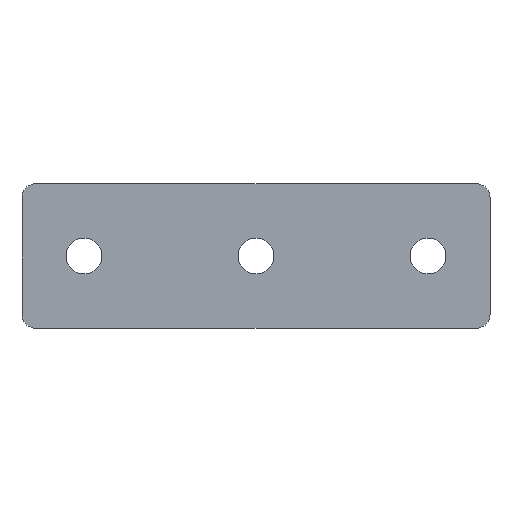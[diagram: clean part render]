
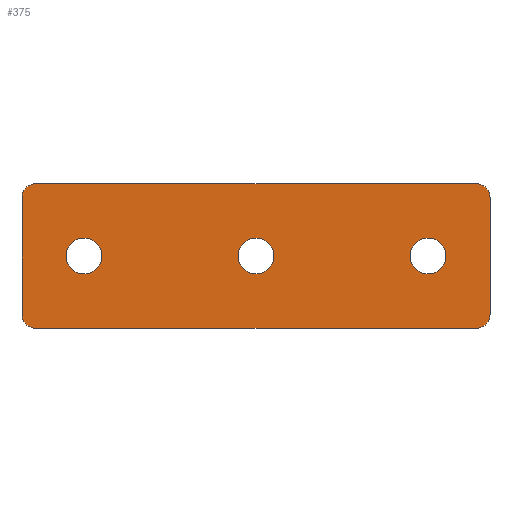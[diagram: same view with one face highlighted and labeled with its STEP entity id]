
A CAD part, top view. The second image highlights one B-rep face of the part: STEP entity #375.
In plain terms, the highlighted planar face has unit normal (0, 0, 1).
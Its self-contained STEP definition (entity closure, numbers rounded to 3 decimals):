
#5 = EDGE_CURVE ( 'NONE', #100, #268, #244, .T. ) ;
#8 = CIRCLE ( 'NONE', #251, 2.6 ) ;
#17 = CIRCLE ( 'NONE', #263, 2. ) ;
#25 = CARTESIAN_POINT ( 'NONE',  ( 32., -8.5, 2. ) ) ;
#27 = CIRCLE ( 'NONE', #78, 2. ) ;
#29 = CARTESIAN_POINT ( 'NONE',  ( -25., 0., 2. ) ) ;
#31 = DIRECTION ( 'NONE',  ( -1., 0., 0. ) ) ;
#33 = CIRCLE ( 'NONE', #281, 2. ) ;
#36 = DIRECTION ( 'NONE',  ( 0., 0., 1. ) ) ;
#42 = CARTESIAN_POINT ( 'NONE',  ( 32., -8.5, 2. ) ) ;
#50 = EDGE_CURVE ( 'NONE', #63, #412, #122, .T. ) ;
#63 = VERTEX_POINT ( 'NONE', #340 ) ;
#65 = CARTESIAN_POINT ( 'NONE',  ( 25., 0., 2. ) ) ;
#66 = FACE_BOUND ( 'NONE', #536, .T. ) ;
#70 = AXIS2_PLACEMENT_3D ( 'NONE', #474, #81, #258 ) ;
#71 = DIRECTION ( 'NONE',  ( 0., 0., 1. ) ) ;
#76 = VERTEX_POINT ( 'NONE', #552 ) ;
#78 = AXIS2_PLACEMENT_3D ( 'NONE', #304, #480, #87 ) ;
#81 = DIRECTION ( 'NONE',  ( 0., 0., 1. ) ) ;
#84 = EDGE_CURVE ( 'NONE', #182, #544, #374, .T. ) ;
#87 = DIRECTION ( 'NONE',  ( -1., 0., 0. ) ) ;
#88 = AXIS2_PLACEMENT_3D ( 'NONE', #515, #190, #359 ) ;
#92 = ORIENTED_EDGE ( 'NONE', *, *, #245, .F. ) ;
#97 = VERTEX_POINT ( 'NONE', #301 ) ;
#100 = VERTEX_POINT ( 'NONE', #127 ) ;
#103 = VERTEX_POINT ( 'NONE', #523 ) ;
#105 = ORIENTED_EDGE ( 'NONE', *, *, #388, .T. ) ;
#106 = DIRECTION ( 'NONE',  ( 0., 0., 1. ) ) ;
#113 = DIRECTION ( 'NONE',  ( 1., 0., 0. ) ) ;
#122 = CIRCLE ( 'NONE', #368, 2. ) ;
#127 = CARTESIAN_POINT ( 'NONE',  ( 27.6, 0., 2. ) ) ;
#129 = DIRECTION ( 'NONE',  ( 1., 0., 0. ) ) ;
#131 = CARTESIAN_POINT ( 'NONE',  ( 25., 0., 2. ) ) ;
#134 = ORIENTED_EDGE ( 'NONE', *, *, #152, .T. ) ;
#135 = CARTESIAN_POINT ( 'NONE',  ( 32., 10.5, 2. ) ) ;
#139 = VERTEX_POINT ( 'NONE', #472 ) ;
#148 = EDGE_CURVE ( 'NONE', #412, #139, #557, .T. ) ;
#152 = EDGE_CURVE ( 'NONE', #139, #397, #33, .T. ) ;
#156 = CARTESIAN_POINT ( 'NONE',  ( -34., 8.5, 2. ) ) ;
#168 = AXIS2_PLACEMENT_3D ( 'NONE', #65, #334, #113 ) ;
#181 = VERTEX_POINT ( 'NONE', #310 ) ;
#182 = VERTEX_POINT ( 'NONE', #135 ) ;
#183 = ORIENTED_EDGE ( 'NONE', *, *, #342, .F. ) ;
#188 = EDGE_CURVE ( 'NONE', #268, #100, #521, .T. ) ;
#190 = DIRECTION ( 'NONE',  ( 0., 0., 1. ) ) ;
#198 = DIRECTION ( 'NONE',  ( 0., 0., 1. ) ) ;
#205 = CARTESIAN_POINT ( 'NONE',  ( -32., 10.5, 2. ) ) ;
#210 = DIRECTION ( 'NONE',  ( 1., 0., 0. ) ) ;
#211 = DIRECTION ( 'NONE',  ( 0., 1., 0. ) ) ;
#216 = VECTOR ( 'NONE', #211, 1000. ) ;
#220 = CARTESIAN_POINT ( 'NONE',  ( 2.6, 0., 2. ) ) ;
#237 = FACE_OUTER_BOUND ( 'NONE', #548, .T. ) ;
#240 = LINE ( 'NONE', #417, #216 ) ;
#243 = DIRECTION ( 'NONE',  ( 0., 0., 1. ) ) ;
#244 = CIRCLE ( 'NONE', #168, 2.6 ) ;
#245 = EDGE_CURVE ( 'NONE', #76, #103, #547, .T. ) ;
#249 = EDGE_CURVE ( 'NONE', #103, #76, #8, .T. ) ;
#251 = AXIS2_PLACEMENT_3D ( 'NONE', #509, #71, #373 ) ;
#258 = DIRECTION ( 'NONE',  ( 1., 0., 0. ) ) ;
#263 = AXIS2_PLACEMENT_3D ( 'NONE', #495, #106, #279 ) ;
#268 = VERTEX_POINT ( 'NONE', #384 ) ;
#271 = ORIENTED_EDGE ( 'NONE', *, *, #249, .F. ) ;
#279 = DIRECTION ( 'NONE',  ( 1., 0., 0. ) ) ;
#281 = AXIS2_PLACEMENT_3D ( 'NONE', #42, #36, #428 ) ;
#284 = FACE_BOUND ( 'NONE', #484, .T. ) ;
#289 = VECTOR ( 'NONE', #327, 1000. ) ;
#301 = CARTESIAN_POINT ( 'NONE',  ( -34., 8.5, 2. ) ) ;
#304 = CARTESIAN_POINT ( 'NONE',  ( 32., 8.5, 2. ) ) ;
#309 = VERTEX_POINT ( 'NONE', #423 ) ;
#310 = CARTESIAN_POINT ( 'NONE',  ( -2.6, 0., 2. ) ) ;
#313 = ORIENTED_EDGE ( 'NONE', *, *, #50, .T. ) ;
#325 = AXIS2_PLACEMENT_3D ( 'NONE', #29, #243, #477 ) ;
#326 = ORIENTED_EDGE ( 'NONE', *, *, #508, .T. ) ;
#327 = DIRECTION ( 'NONE',  ( 0., -1., 0. ) ) ;
#334 = DIRECTION ( 'NONE',  ( 0., 0., 1. ) ) ;
#340 = CARTESIAN_POINT ( 'NONE',  ( -34., -8.5, 2. ) ) ;
#342 = EDGE_CURVE ( 'NONE', #535, #181, #409, .T. ) ;
#346 = EDGE_CURVE ( 'NONE', #544, #97, #17, .T. ) ;
#356 = ORIENTED_EDGE ( 'NONE', *, *, #5, .F. ) ;
#358 = AXIS2_PLACEMENT_3D ( 'NONE', #25, #198, #366 ) ;
#359 = DIRECTION ( 'NONE',  ( 1., 0., 0. ) ) ;
#366 = DIRECTION ( 'NONE',  ( 1., 0., 0. ) ) ;
#368 = AXIS2_PLACEMENT_3D ( 'NONE', #455, #426, #129 ) ;
#369 = AXIS2_PLACEMENT_3D ( 'NONE', #131, #528, #525 ) ;
#373 = DIRECTION ( 'NONE',  ( 1., 0., 0. ) ) ;
#374 = LINE ( 'NONE', #205, #546 ) ;
#375 = ADVANCED_FACE ( 'NONE', ( #284, #456, #66, #237 ), #414, .T. ) ;
#380 = CARTESIAN_POINT ( 'NONE',  ( -32., -10.5, 2. ) ) ;
#382 = CARTESIAN_POINT ( 'NONE',  ( 34., -8.5, 2. ) ) ;
#384 = CARTESIAN_POINT ( 'NONE',  ( 22.4, 0., 2. ) ) ;
#386 = CIRCLE ( 'NONE', #70, 2.6 ) ;
#388 = EDGE_CURVE ( 'NONE', #97, #63, #545, .T. ) ;
#391 = CARTESIAN_POINT ( 'NONE',  ( -32., 10.5, 2. ) ) ;
#393 = EDGE_CURVE ( 'NONE', #397, #309, #240, .T. ) ;
#395 = ORIENTED_EDGE ( 'NONE', *, *, #346, .T. ) ;
#397 = VERTEX_POINT ( 'NONE', #382 ) ;
#403 = ORIENTED_EDGE ( 'NONE', *, *, #84, .T. ) ;
#409 = CIRCLE ( 'NONE', #88, 2.6 ) ;
#412 = VERTEX_POINT ( 'NONE', #519 ) ;
#414 = PLANE ( 'NONE',  #358 ) ;
#417 = CARTESIAN_POINT ( 'NONE',  ( 34., 8.5, 2. ) ) ;
#423 = CARTESIAN_POINT ( 'NONE',  ( 34., 8.5, 2. ) ) ;
#426 = DIRECTION ( 'NONE',  ( 0., 0., 1. ) ) ;
#427 = VECTOR ( 'NONE', #210, 1000. ) ;
#428 = DIRECTION ( 'NONE',  ( 1., 0., 0. ) ) ;
#449 = EDGE_CURVE ( 'NONE', #181, #535, #386, .T. ) ;
#452 = EDGE_LOOP ( 'NONE', ( #356, #541 ) ) ;
#455 = CARTESIAN_POINT ( 'NONE',  ( -32., -8.5, 2. ) ) ;
#456 = FACE_BOUND ( 'NONE', #452, .T. ) ;
#472 = CARTESIAN_POINT ( 'NONE',  ( 32., -10.5, 2. ) ) ;
#474 = CARTESIAN_POINT ( 'NONE',  ( 0., 0., 2. ) ) ;
#477 = DIRECTION ( 'NONE',  ( 1., 0., 0. ) ) ;
#480 = DIRECTION ( 'NONE',  ( 0., 0., 1. ) ) ;
#484 = EDGE_LOOP ( 'NONE', ( #271, #92 ) ) ;
#487 = ORIENTED_EDGE ( 'NONE', *, *, #148, .T. ) ;
#494 = ORIENTED_EDGE ( 'NONE', *, *, #393, .T. ) ;
#495 = CARTESIAN_POINT ( 'NONE',  ( -32., 8.5, 2. ) ) ;
#508 = EDGE_CURVE ( 'NONE', #309, #182, #27, .T. ) ;
#509 = CARTESIAN_POINT ( 'NONE',  ( -25., 0., 2. ) ) ;
#515 = CARTESIAN_POINT ( 'NONE',  ( 0., 0., 2. ) ) ;
#519 = CARTESIAN_POINT ( 'NONE',  ( -32., -10.5, 2. ) ) ;
#521 = CIRCLE ( 'NONE', #369, 2.6 ) ;
#523 = CARTESIAN_POINT ( 'NONE',  ( -22.4, 0., 2. ) ) ;
#525 = DIRECTION ( 'NONE',  ( 1., 0., 0. ) ) ;
#528 = DIRECTION ( 'NONE',  ( 0., 0., 1. ) ) ;
#535 = VERTEX_POINT ( 'NONE', #220 ) ;
#536 = EDGE_LOOP ( 'NONE', ( #183, #539 ) ) ;
#539 = ORIENTED_EDGE ( 'NONE', *, *, #449, .F. ) ;
#541 = ORIENTED_EDGE ( 'NONE', *, *, #188, .F. ) ;
#544 = VERTEX_POINT ( 'NONE', #391 ) ;
#545 = LINE ( 'NONE', #156, #289 ) ;
#546 = VECTOR ( 'NONE', #31, 1000. ) ;
#547 = CIRCLE ( 'NONE', #325, 2.6 ) ;
#548 = EDGE_LOOP ( 'NONE', ( #134, #494, #326, #403, #395, #105, #313, #487 ) ) ;
#552 = CARTESIAN_POINT ( 'NONE',  ( -27.6, 0., 2. ) ) ;
#557 = LINE ( 'NONE', #380, #427 ) ;
